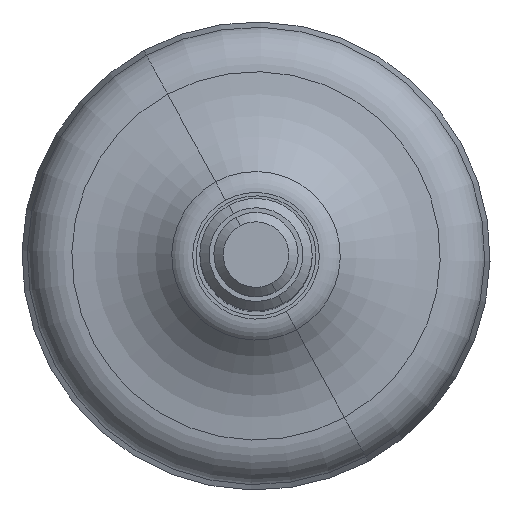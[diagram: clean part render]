
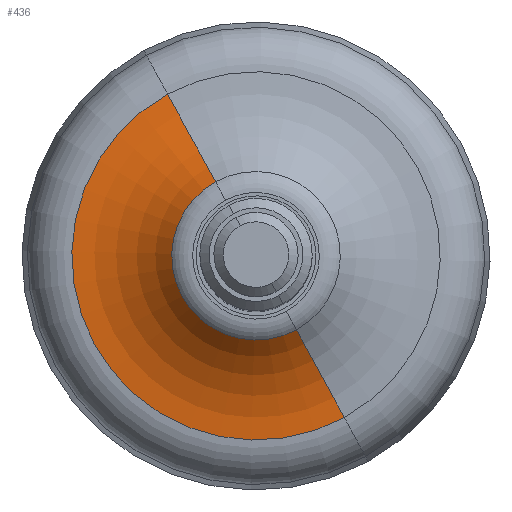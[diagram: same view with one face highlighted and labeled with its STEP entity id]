
A CAD part, top view. The second image highlights one B-rep face of the part: STEP entity #436.
In plain terms, the highlighted toroidal (fillet/blend) face has major radius 20.189 mm and minor radius 15 mm.
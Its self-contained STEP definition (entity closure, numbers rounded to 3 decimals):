
#372=CARTESIAN_POINT('Vertex',(9.431,-17.264,14.997)) ;
#375=CARTESIAN_POINT('Axis2P3D Location',(0.,0.,14.997)) ;
#379=CARTESIAN_POINT('Vertex',(-9.431,17.264,14.997)) ;
#406=CARTESIAN_POINT('Axis2P3D Location',(0.,0.,29.988)) ;
#411=CARTESIAN_POINT('Axis2P3D Location',(9.679,-17.718,29.988)) ;
#415=CARTESIAN_POINT('Vertex',(4.315,-7.898,19.998)) ;
#418=CARTESIAN_POINT('Axis2P3D Location',(0.,0.,19.998)) ;
#422=CARTESIAN_POINT('Vertex',(-4.315,7.898,19.998)) ;
#425=CARTESIAN_POINT('Axis2P3D Location',(-9.679,17.718,29.988)) ;
#376=DIRECTION('Axis2P3D Direction',(0.,0.,1.)) ;
#407=DIRECTION('Axis2P3D Direction',(0.,0.,1.)) ;
#408=DIRECTION('Axis2P3D XDirection',(-0.479,0.878,0.)) ;
#412=DIRECTION('Axis2P3D Direction',(-0.878,-0.479,0.)) ;
#419=DIRECTION('Axis2P3D Direction',(0.,0.,1.)) ;
#426=DIRECTION('Axis2P3D Direction',(0.878,0.479,-0.)) ;
#377=AXIS2_PLACEMENT_3D('Circle Axis2P3D',#375,#376,$) ;
#409=AXIS2_PLACEMENT_3D('Torus Axis2P3D',#406,#407,#408) ;
#413=AXIS2_PLACEMENT_3D('Circle Axis2P3D',#411,#412,$) ;
#420=AXIS2_PLACEMENT_3D('Circle Axis2P3D',#418,#419,$) ;
#427=AXIS2_PLACEMENT_3D('Circle Axis2P3D',#425,#426,$) ;
#431=ORIENTED_EDGE('',*,*,#417,.T.) ;
#432=ORIENTED_EDGE('',*,*,#424,.F.) ;
#433=ORIENTED_EDGE('',*,*,#429,.F.) ;
#434=ORIENTED_EDGE('',*,*,#381,.T.) ;
#436=ADVANCED_FACE('PartBody',(#435),#410,.F.) ;
#378=CIRCLE('generated circle',#377,19.672) ;
#414=CIRCLE('generated circle',#413,15.) ;
#421=CIRCLE('generated circle',#420,9.) ;
#428=CIRCLE('generated circle',#427,15.) ;
#410=TOROIDAL_SURFACE('homeo Torus',#409,20.189,15.) ;
#381=EDGE_CURVE('',#380,#373,#378,.T.) ;
#417=EDGE_CURVE('',#373,#416,#414,.F.) ;
#424=EDGE_CURVE('',#423,#416,#421,.T.) ;
#429=EDGE_CURVE('',#380,#423,#428,.F.) ;
#430=EDGE_LOOP('',(#431,#432,#433,#434)) ;
#435=FACE_OUTER_BOUND('',#430,.T.) ;
#373=VERTEX_POINT('',#372) ;
#380=VERTEX_POINT('',#379) ;
#416=VERTEX_POINT('',#415) ;
#423=VERTEX_POINT('',#422) ;
